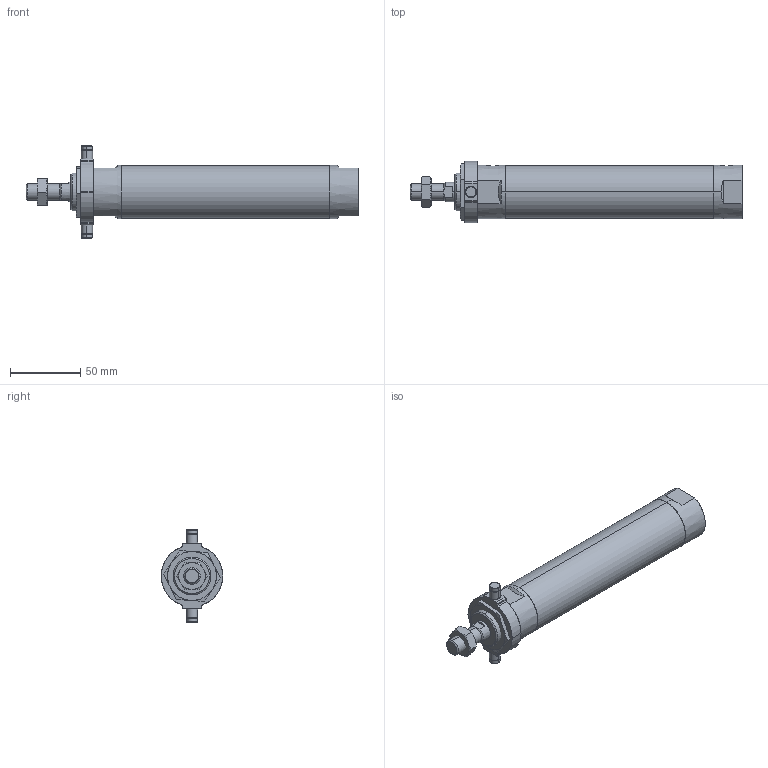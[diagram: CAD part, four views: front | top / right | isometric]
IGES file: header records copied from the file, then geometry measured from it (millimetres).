
Start section: SolidWorks IGES file using analytic representation for surfaces
Global section: file name: C:\Users\Toshiba\Desktop\JGND2-32-100-T.IGS; native system: SolidWorks 2014; preprocessor: SolidWorks 2014; author: Toshiba; date: 160804.105243; units: millimetre
Bounding box: 237 x 44 x 66 mm (x, y, z)
Surface area: 35697 mm2 (no closed solid volume)
Topology: 0 solids, 0 shells, 128 faces, 2076 edges, 2072 vertices
Faces by surface type: bspline 66, revolution 62
